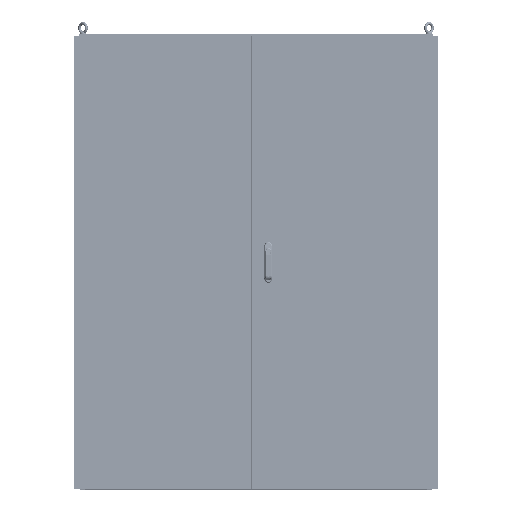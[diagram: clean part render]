
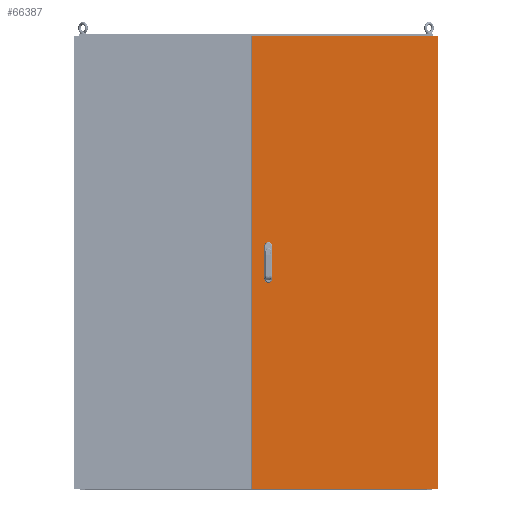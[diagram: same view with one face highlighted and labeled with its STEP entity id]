
A CAD part, front view. The second image highlights one B-rep face of the part: STEP entity #66387.
In plain terms, the highlighted planar face has unit normal (0, -1, 0).
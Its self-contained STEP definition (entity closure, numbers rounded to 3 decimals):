
#1755=PLANE('',#72515);
#6072=ORIENTED_EDGE('',*,*,#24092,.T.);
#6073=ORIENTED_EDGE('',*,*,#24093,.T.);
#6074=ORIENTED_EDGE('',*,*,#24094,.T.);
#6075=ORIENTED_EDGE('',*,*,#24095,.T.);
#6076=ORIENTED_EDGE('',*,*,#24096,.T.);
#6077=ORIENTED_EDGE('',*,*,#24097,.T.);
#6078=ORIENTED_EDGE('',*,*,#24098,.T.);
#6079=ORIENTED_EDGE('',*,*,#24099,.T.);
#6080=ORIENTED_EDGE('',*,*,#24065,.F.);
#6081=ORIENTED_EDGE('',*,*,#24074,.F.);
#6082=ORIENTED_EDGE('',*,*,#24089,.F.);
#6083=ORIENTED_EDGE('',*,*,#24071,.F.);
#24065=EDGE_CURVE('',#33096,#33097,#39515,.T.);
#24071=EDGE_CURVE('',#33097,#33102,#39519,.T.);
#24074=EDGE_CURVE('',#33104,#33096,#39522,.T.);
#24089=EDGE_CURVE('',#33102,#33104,#39537,.T.);
#24092=EDGE_CURVE('',#33114,#33115,#39540,.T.);
#24093=EDGE_CURVE('',#33115,#33116,#39541,.T.);
#24094=EDGE_CURVE('',#33116,#33117,#39542,.T.);
#24095=EDGE_CURVE('',#33117,#33114,#39543,.T.);
#24096=EDGE_CURVE('',#33118,#33119,#39544,.T.);
#24097=EDGE_CURVE('',#33119,#33120,#39545,.T.);
#24098=EDGE_CURVE('',#33120,#33121,#39546,.T.);
#24099=EDGE_CURVE('',#33121,#33118,#39547,.T.);
#33096=VERTEX_POINT('',#95940);
#33097=VERTEX_POINT('',#95942);
#33102=VERTEX_POINT('',#95960);
#33104=VERTEX_POINT('',#95965);
#33114=VERTEX_POINT('',#96021);
#33115=VERTEX_POINT('',#96022);
#33116=VERTEX_POINT('',#96024);
#33117=VERTEX_POINT('',#96026);
#33118=VERTEX_POINT('',#96029);
#33119=VERTEX_POINT('',#96030);
#33120=VERTEX_POINT('',#96032);
#33121=VERTEX_POINT('',#96034);
#39515=LINE('',#95941,#46617);
#39519=LINE('',#95959,#46621);
#39522=LINE('',#95966,#46624);
#39537=LINE('',#96015,#46639);
#39540=LINE('',#96020,#46642);
#39541=LINE('',#96023,#46643);
#39542=LINE('',#96025,#46644);
#39543=LINE('',#96027,#46645);
#39544=LINE('',#96028,#46646);
#39545=LINE('',#96031,#46647);
#39546=LINE('',#96033,#46648);
#39547=LINE('',#96035,#46649);
#46617=VECTOR('',#78011,1000.);
#46621=VECTOR('',#78017,1000.);
#46624=VECTOR('',#78022,1000.);
#46639=VECTOR('',#78047,1000.);
#46642=VECTOR('',#78054,1000.);
#46643=VECTOR('',#78055,1000.);
#46644=VECTOR('',#78056,1000.);
#46645=VECTOR('',#78057,1000.);
#46646=VECTOR('',#78058,1000.);
#46647=VECTOR('',#78059,1000.);
#46648=VECTOR('',#78060,1000.);
#46649=VECTOR('',#78061,1000.);
#53729=EDGE_LOOP('',(#6072,#6073,#6074,#6075));
#53730=EDGE_LOOP('',(#6076,#6077,#6078,#6079));
#53731=EDGE_LOOP('',(#6080,#6081,#6082,#6083));
#59652=FACE_BOUND('',#53729,.T.);
#59653=FACE_BOUND('',#53730,.T.);
#59654=FACE_BOUND('',#53731,.T.);
#66387=ADVANCED_FACE('',(#59652,#59653,#59654),#1755,.F.);
#72515=AXIS2_PLACEMENT_3D('',#96019,#78052,#78053);
#78011=DIRECTION('',(0.,0.,1.));
#78017=DIRECTION('',(1.,0.,0.));
#78022=DIRECTION('',(-1.,0.,0.));
#78047=DIRECTION('',(0.,0.,-1.));
#78052=DIRECTION('',(0.,1.,0.));
#78053=DIRECTION('',(1.,0.,0.));
#78054=DIRECTION('',(-1.,0.,0.));
#78055=DIRECTION('',(0.,0.,1.));
#78056=DIRECTION('',(1.,0.,0.));
#78057=DIRECTION('',(0.,0.,-1.));
#78058=DIRECTION('',(-1.,0.,0.));
#78059=DIRECTION('',(0.,0.,1.));
#78060=DIRECTION('',(1.,0.,0.));
#78061=DIRECTION('',(0.,0.,-1.));
#95940=CARTESIAN_POINT('',(-37.732,-13.,-995.));
#95941=CARTESIAN_POINT('',(-37.732,-13.,-995.));
#95942=CARTESIAN_POINT('',(-37.732,-13.,995.));
#95959=CARTESIAN_POINT('',(-37.732,-13.,995.));
#95960=CARTESIAN_POINT('',(775.8,-13.,995.));
#95965=CARTESIAN_POINT('',(775.8,-13.,-995.));
#95966=CARTESIAN_POINT('',(775.8,-13.,-995.));
#96015=CARTESIAN_POINT('',(775.8,-13.,995.));
#96019=CARTESIAN_POINT('',(0.,-13.,0.));
#96020=CARTESIAN_POINT('',(44.789,-13.,-75.));
#96021=CARTESIAN_POINT('',(44.789,-13.,-75.));
#96022=CARTESIAN_POINT('',(19.789,-13.,-75.));
#96023=CARTESIAN_POINT('',(19.789,-13.,-75.));
#96024=CARTESIAN_POINT('',(19.789,-13.,-25.));
#96025=CARTESIAN_POINT('',(19.789,-13.,-25.));
#96026=CARTESIAN_POINT('',(44.789,-13.,-25.));
#96027=CARTESIAN_POINT('',(44.789,-13.,-25.));
#96028=CARTESIAN_POINT('',(44.789,-13.,25.));
#96029=CARTESIAN_POINT('',(44.789,-13.,25.));
#96030=CARTESIAN_POINT('',(19.789,-13.,25.));
#96031=CARTESIAN_POINT('',(19.789,-13.,25.));
#96032=CARTESIAN_POINT('',(19.789,-13.,75.));
#96033=CARTESIAN_POINT('',(19.789,-13.,75.));
#96034=CARTESIAN_POINT('',(44.789,-13.,75.));
#96035=CARTESIAN_POINT('',(44.789,-13.,75.));
